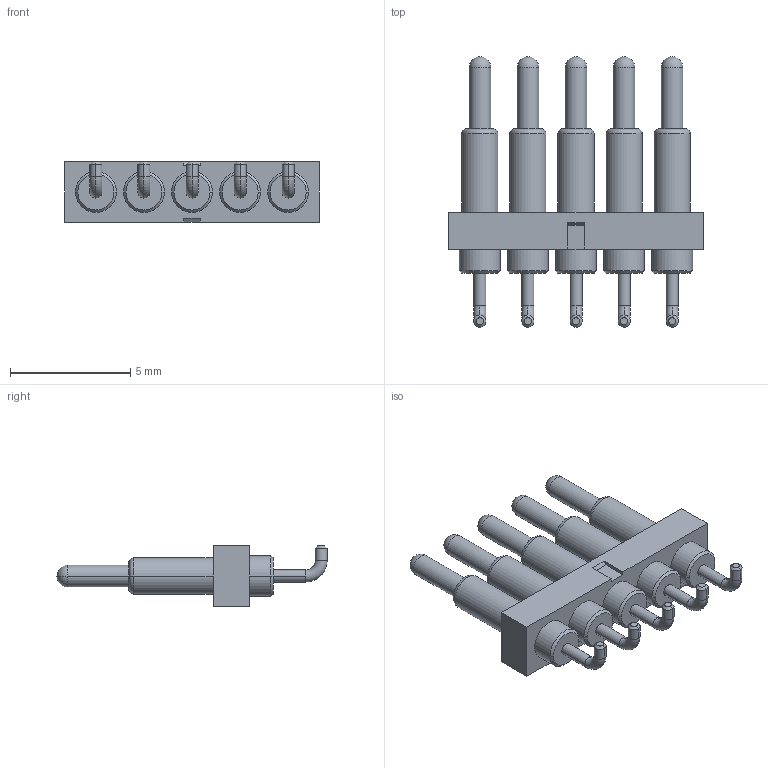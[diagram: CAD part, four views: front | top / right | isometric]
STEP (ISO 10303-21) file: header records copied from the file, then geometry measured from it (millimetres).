
FILE_DESCRIPTION((''),'2;1');
FILE_NAME('PH-5P-2_0PH-1_5H-AC_1','2022-05-25T15:45:52',('Administrator'),(''),'CREO PARAMETRIC BY PTC INC, 2018400','CREO PARAMETRIC BY PTC INC, 2018400','');
FILE_SCHEMA(('CONFIG_CONTROL_DESIGN'));
Length unit declared in the file: millimetre
Products named in the file (1): PH-5P-2_0PH-1_5H-AC_1
Bounding box: 10.6 x 11.25 x 2.5 mm (x, y, z)
Volume: 93.3 mm3; surface area: 300.4 mm2
Topology: 1 solids, 11 shells, 194 faces, 416 edges, 249 vertices
Faces by surface type: cylinder 90, plane 44, cone 30, torus 20, sphere 10
Entity records: 5402 total; most frequent: DIRECTION 1024, CARTESIAN_POINT 1003, ORIENTED_EDGE 812, AXIS2_PLACEMENT_3D 434, EDGE_CURVE 406, VERTEX_POINT 249, CIRCLE 240, EDGE_LOOP 229
